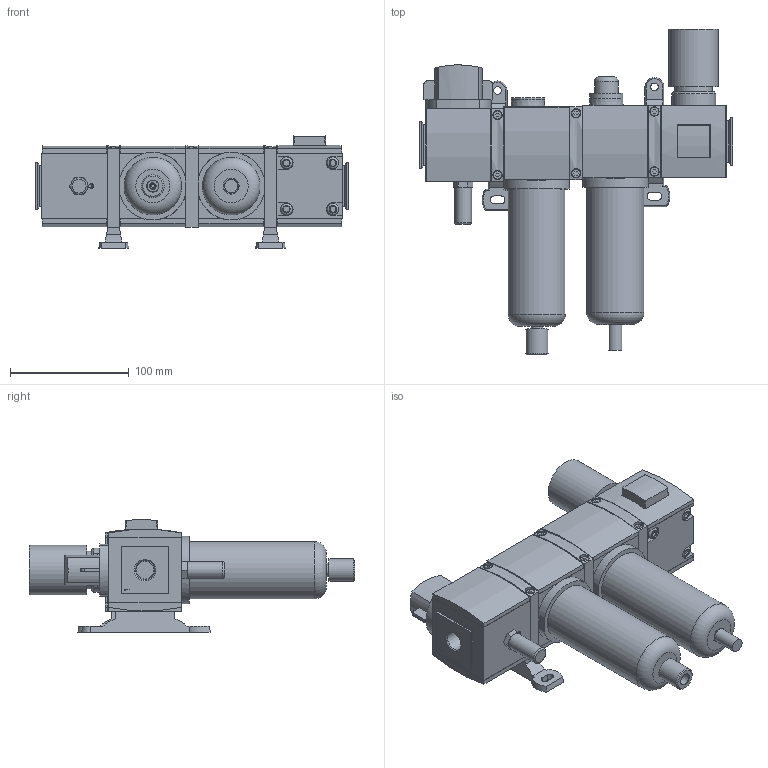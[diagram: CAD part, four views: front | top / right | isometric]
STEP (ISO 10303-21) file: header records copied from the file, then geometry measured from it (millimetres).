
FILE_DESCRIPTION( ( 'STEP AP214' ), '1' );
FILE_NAME( 'p:/temp/worker_229/temp/exporttempdir_1004_586_e1tQ9/format_0/07332020-200206_gen_5830.stp', '2020-02-07T19:33:08', ( '' ), ( '' ), ' ', 'PARTsolutions', ' ' );
FILE_SCHEMA( ( 'AUTOMOTIVE_DESIGN { 1 0 10303 214 1 1 1 1 }' ) );
Length unit declared in the file: millimetre
Products named in the file (21): 07332020-200206_gen_5830; _433433014-F--0-A00129L; _433441-002-SV-0; _437742-001-100; _M2MN_652; _G652ASLA0B00A00_LS; _431787-002-F-A00PJBN1; _440511-008-P; _440512-002-N; _433441-001-R-0; _439851-002; _G652ASLA0A00A00_LS; _431787-002-F-A00PHM01; _501862-002-C; _439851-001; _437794-002-F-HGL; _433441-001-R-H; _438047-009; _433879-001; _433894-001; _440508-001-STANDARD
Assembly tree (27 placements, depth 2):
  07332020-200206_gen_5830
    _433433014-F--0-A00129L
    _433441-002-SV-0  x2
    _437742-001-100
    _M2MN_652
    _G652ASLA0B00A00_LS  x2
    _431787-002-F-A00PJBN1
    _440511-008-P  x2
    _440512-002-N
    _433441-001-R-0  x5
    _439851-002
    _G652ASLA0A00A00_LS
    _431787-002-F-A00PHM01
    _501862-002-C
    _439851-001
    _437794-002-F-HGL
    _433441-001-R-H
    _438047-009
    _433879-001
    _433894-001
    _440508-001-STANDARD
Bounding box: 264 x 274.02 x 94.91 mm (x, y, z)
Volume: 1690741.5 mm3; surface area: 295448.8 mm2
Topology: 27 solids, 27 shells, 953 faces, 2278 edges, 1478 vertices
Faces by surface type: plane 754, cylinder 117, cone 66, torus 14, sphere 2
Full cylindrical faces by diameter (mm): 2.8 x2, 3 x2, 5 x1, 5.6 x8, 6.3 x8, 6.5 x2, 7 x6, 7.8 x6, 8.25 x4, 9.728 x2, 10 x8, 11.3 x1, 13.5 x1, 14.224 x1, 15.1 x1, 19 x1, 19.847 x1, 28 x1, 31.6 x1, 37 x1, 41.845 x1, 48.5 x2
Entity records: 31713 total; most frequent: CARTESIAN_POINT 4779, DIRECTION 3961, ORIENTED_EDGE 3872, EDGE_CURVE 1936, LINE 1587, VECTOR 1587, VERTEX_POINT 1325, AXIS2_PLACEMENT_3D 1187
